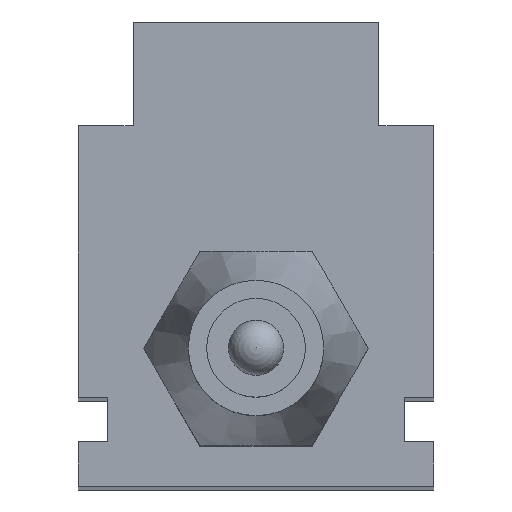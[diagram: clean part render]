
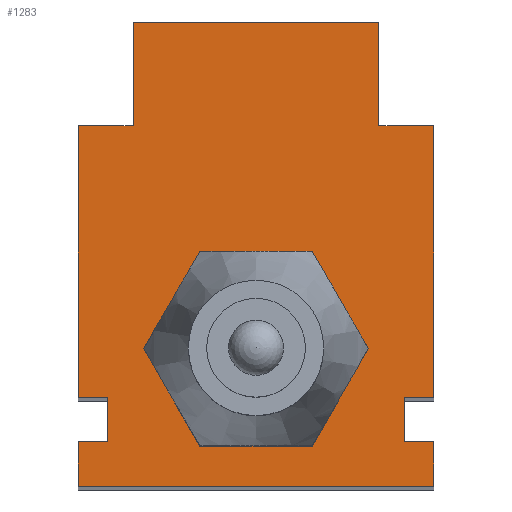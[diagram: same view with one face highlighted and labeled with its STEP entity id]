
A CAD part, top view. The second image highlights one B-rep face of the part: STEP entity #1283.
In plain terms, the highlighted planar face has unit normal (0, 0, 1).
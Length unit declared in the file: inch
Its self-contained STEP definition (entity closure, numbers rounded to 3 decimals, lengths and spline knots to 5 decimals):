
#40=FACE_BOUND('',#164,.T.);
#61=CIRCLE('',#1374,0.178);
#85=FACE_OUTER_BOUND('',#163,.T.);
#163=EDGE_LOOP('',(#853,#854,#855,#856,#857,#858,#859,#860,#861,#862,#863,
#864,#865,#866,#867,#868));
#164=EDGE_LOOP('',(#869));
#269=LINE('',#1823,#410);
#270=LINE('',#1826,#411);
#272=LINE('',#1830,#413);
#275=LINE('',#1836,#416);
#276=LINE('',#1838,#417);
#277=LINE('',#1840,#418);
#278=LINE('',#1842,#419);
#279=LINE('',#1844,#420);
#280=LINE('',#1846,#421);
#281=LINE('',#1848,#422);
#282=LINE('',#1850,#423);
#283=LINE('',#1852,#424);
#284=LINE('',#1854,#425);
#285=LINE('',#1856,#426);
#286=LINE('',#1858,#427);
#287=LINE('',#1859,#428);
#410=VECTOR('',#1488,0.3937);
#411=VECTOR('',#1491,0.3937);
#413=VECTOR('',#1495,0.3937);
#416=VECTOR('',#1500,0.3937);
#417=VECTOR('',#1501,0.3937);
#418=VECTOR('',#1502,0.3937);
#419=VECTOR('',#1503,0.3937);
#420=VECTOR('',#1504,0.3937);
#421=VECTOR('',#1505,0.3937);
#422=VECTOR('',#1506,0.3937);
#423=VECTOR('',#1507,0.3937);
#424=VECTOR('',#1508,0.3937);
#425=VECTOR('',#1509,0.3937);
#426=VECTOR('',#1510,0.3937);
#427=VECTOR('',#1511,0.3937);
#428=VECTOR('',#1512,0.3937);
#545=VERTEX_POINT('',#1818);
#546=VERTEX_POINT('',#1821);
#547=VERTEX_POINT('',#1825);
#548=VERTEX_POINT('',#1829);
#550=VERTEX_POINT('',#1835);
#551=VERTEX_POINT('',#1837);
#552=VERTEX_POINT('',#1839);
#553=VERTEX_POINT('',#1841);
#554=VERTEX_POINT('',#1843);
#555=VERTEX_POINT('',#1845);
#556=VERTEX_POINT('',#1847);
#557=VERTEX_POINT('',#1849);
#558=VERTEX_POINT('',#1851);
#559=VERTEX_POINT('',#1853);
#560=VERTEX_POINT('',#1855);
#561=VERTEX_POINT('',#1857);
#562=VERTEX_POINT('',#1860);
#668=EDGE_CURVE('',#545,#546,#269,.T.);
#669=EDGE_CURVE('',#546,#547,#270,.T.);
#671=EDGE_CURVE('',#545,#548,#272,.T.);
#674=EDGE_CURVE('',#550,#547,#275,.T.);
#675=EDGE_CURVE('',#550,#551,#276,.T.);
#676=EDGE_CURVE('',#551,#552,#277,.T.);
#677=EDGE_CURVE('',#553,#552,#278,.T.);
#678=EDGE_CURVE('',#554,#553,#279,.T.);
#679=EDGE_CURVE('',#555,#554,#280,.T.);
#680=EDGE_CURVE('',#556,#555,#281,.T.);
#681=EDGE_CURVE('',#557,#556,#282,.T.);
#682=EDGE_CURVE('',#558,#557,#283,.T.);
#683=EDGE_CURVE('',#559,#558,#284,.T.);
#684=EDGE_CURVE('',#560,#559,#285,.T.);
#685=EDGE_CURVE('',#561,#560,#286,.T.);
#686=EDGE_CURVE('',#548,#561,#287,.T.);
#687=EDGE_CURVE('',#562,#562,#61,.T.);
#853=ORIENTED_EDGE('',*,*,#668,.T.);
#854=ORIENTED_EDGE('',*,*,#669,.T.);
#855=ORIENTED_EDGE('',*,*,#674,.F.);
#856=ORIENTED_EDGE('',*,*,#675,.T.);
#857=ORIENTED_EDGE('',*,*,#676,.T.);
#858=ORIENTED_EDGE('',*,*,#677,.F.);
#859=ORIENTED_EDGE('',*,*,#678,.F.);
#860=ORIENTED_EDGE('',*,*,#679,.F.);
#861=ORIENTED_EDGE('',*,*,#680,.F.);
#862=ORIENTED_EDGE('',*,*,#681,.F.);
#863=ORIENTED_EDGE('',*,*,#682,.F.);
#864=ORIENTED_EDGE('',*,*,#683,.F.);
#865=ORIENTED_EDGE('',*,*,#684,.F.);
#866=ORIENTED_EDGE('',*,*,#685,.F.);
#867=ORIENTED_EDGE('',*,*,#686,.F.);
#868=ORIENTED_EDGE('',*,*,#671,.F.);
#869=ORIENTED_EDGE('',*,*,#687,.T.);
#1165=PLANE('',#1373);
#1283=ADVANCED_FACE('',(#85,#40),#1165,.T.);
#1373=AXIS2_PLACEMENT_3D('',#1834,#1498,#1499);
#1374=AXIS2_PLACEMENT_3D('',#1861,#1513,#1514);
#1488=DIRECTION('',(-1.,0.,0.));
#1491=DIRECTION('',(0.,1.,0.));
#1495=DIRECTION('',(0.,-1.,0.));
#1498=DIRECTION('center_axis',(0.,0.,1.));
#1499=DIRECTION('ref_axis',(1.,0.,0.));
#1500=DIRECTION('',(1.,0.,0.));
#1501=DIRECTION('',(0.,-1.,0.));
#1502=DIRECTION('',(-1.,0.,0.));
#1503=DIRECTION('',(0.,1.,0.));
#1504=DIRECTION('',(-1.,0.,0.));
#1505=DIRECTION('',(0.,1.,0.));
#1506=DIRECTION('',(1.,0.,0.));
#1507=DIRECTION('',(0.,1.,0.));
#1508=DIRECTION('',(-1.,0.,0.));
#1509=DIRECTION('',(0.,-1.,0.));
#1510=DIRECTION('',(1.,0.,0.));
#1511=DIRECTION('',(0.,-1.,0.));
#1512=DIRECTION('',(-1.,0.,0.));
#1513=DIRECTION('center_axis',(0.,0.,-1.));
#1514=DIRECTION('ref_axis',(1.,0.,0.));
#1818=CARTESIAN_POINT('',(0.35998,0.4564,-3.84197));
#1821=CARTESIAN_POINT('',(0.24877,0.4564,-3.84197));
#1823=CARTESIAN_POINT('',(0.12438,0.4564,-3.84197));
#1825=CARTESIAN_POINT('',(0.24877,0.6664,-3.84197));
#1826=CARTESIAN_POINT('',(0.24877,0.42011,-3.84197));
#1829=CARTESIAN_POINT('',(0.35998,-0.0936,-3.84197));
#1830=CARTESIAN_POINT('',(0.35998,0.6664,-3.84197));
#1834=CARTESIAN_POINT('Origin',(-0.00002,0.17382,
-3.84197));
#1835=CARTESIAN_POINT('',(-0.24877,0.6664,-3.84197));
#1836=CARTESIAN_POINT('',(-0.36002,0.6664,-3.84197));
#1837=CARTESIAN_POINT('',(-0.24877,0.4564,-3.84197));
#1838=CARTESIAN_POINT('',(-0.24877,0.42011,-3.84197));
#1839=CARTESIAN_POINT('',(-0.36002,0.4564,-3.84197));
#1840=CARTESIAN_POINT('',(-0.1244,0.4564,-3.84197));
#1841=CARTESIAN_POINT('',(-0.36002,-0.0936,-3.84197));
#1842=CARTESIAN_POINT('',(-0.36002,-0.0936,-3.84197));
#1843=CARTESIAN_POINT('',(-0.30002,-0.0936,-3.84197));
#1844=CARTESIAN_POINT('',(-0.30002,-0.0936,-3.84197));
#1845=CARTESIAN_POINT('',(-0.30002,-0.1836,-3.84197));
#1846=CARTESIAN_POINT('',(-0.30002,-0.1836,-3.84197));
#1847=CARTESIAN_POINT('',(-0.36002,-0.1836,-3.84197));
#1848=CARTESIAN_POINT('',(-0.36002,-0.1836,-3.84197));
#1849=CARTESIAN_POINT('',(-0.36002,-0.2736,-3.84197));
#1850=CARTESIAN_POINT('',(-0.36002,-0.2736,-3.84197));
#1851=CARTESIAN_POINT('',(0.35998,-0.2736,-3.84197));
#1852=CARTESIAN_POINT('',(0.35998,-0.2736,-3.84197));
#1853=CARTESIAN_POINT('',(0.35998,-0.1836,-3.84197));
#1854=CARTESIAN_POINT('',(0.35998,0.6664,-3.84197));
#1855=CARTESIAN_POINT('',(0.29998,-0.1836,-3.84197));
#1856=CARTESIAN_POINT('',(0.29998,-0.1836,-3.84197));
#1857=CARTESIAN_POINT('',(0.29998,-0.0936,-3.84197));
#1858=CARTESIAN_POINT('',(0.29998,-0.0936,-3.84197));
#1859=CARTESIAN_POINT('',(0.35998,-0.0936,-3.84197));
#1860=CARTESIAN_POINT('',(-0.178,0.,-3.84197));
#1861=CARTESIAN_POINT('Origin',(0.,0.,-3.84197));
